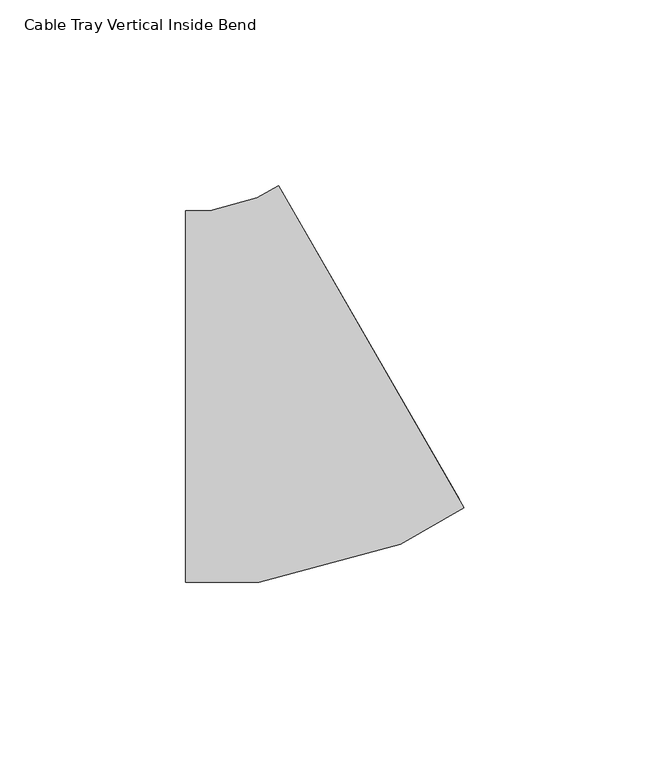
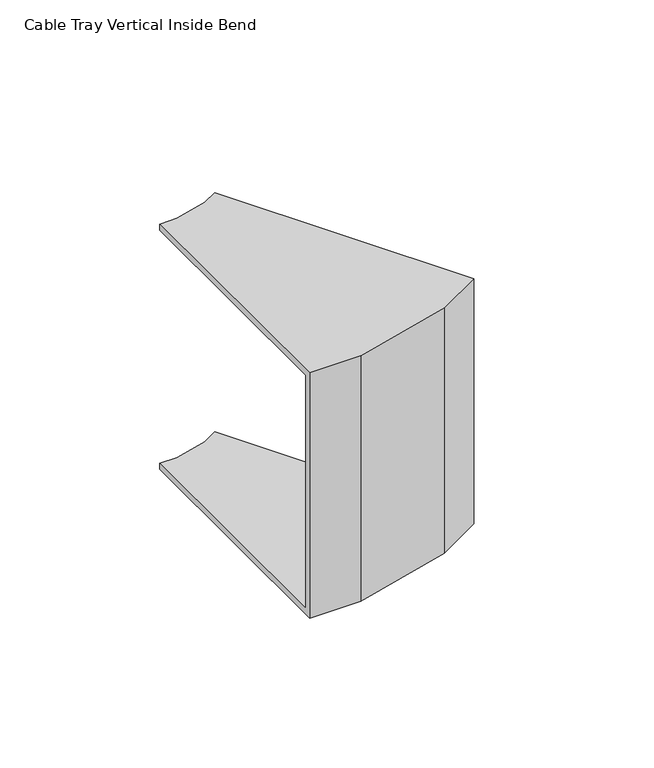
"""IFC4 building model written with IfcOpenShell, lengths in millimetres: cable carrier fitting geometry, Cable Tray Vertical Inside Bend : ELEC_ELV_TKG_N2402."""

import ifcopenshell
import ifcopenshell.guid

model = None  # the IFC model being written
_history = None  # IfcOwnerHistory: only IFC2X3 demands one
_inside = {}  # id of a spatial element -> (the spatial element, [elements in it])
_under = {}  # id of a project, library or spatial element -> (it, [spatial elements below it])
_declared = {}  # id of a project -> (the project, [libraries it declares])
_typed = {}  # id of a type object -> (the type object, [elements of that type])
_made_of = {}  # id of a material, layer set ... -> (it, [elements and type objects made of it])


def new_model(schema):
    """Start an empty IFC model of exactly this schema.

    Asked for "IFC4X3", IfcOpenShell would pick the latest addendum, in which some entities
    have other attributes; the version numbers below select the first issue.
    IFC2X3 requires an IfcOwnerHistory on every rooted entity: one is made here for all.
    """
    global model, _history
    if schema == "IFC4X3":
        model = ifcopenshell.file(schema_version=(4, 3, 0, 0))
    else:
        model = ifcopenshell.file(schema=schema)
    _inside.clear()
    _under.clear()
    _declared.clear()
    _typed.clear()
    _made_of.clear()
    _history = None
    if model.schema == "IFC2X3":
        org = make("IfcOrganization", Name="unknown")
        user = make(
            "IfcPersonAndOrganization",
            ThePerson=make("IfcPerson", FamilyName="unknown"),
            TheOrganization=org,
        )
        app = make(
            "IfcApplication",
            ApplicationDeveloper=org,
            Version="unknown",
            ApplicationFullName="unknown",
            ApplicationIdentifier="unknown",
        )
        _history = make(
            "IfcOwnerHistory",
            OwningUser=user,
            OwningApplication=app,
            ChangeAction="ADDED",
            CreationDate=0,
        )
    return model


def make(cls, **values):
    """One entity of the class cls with the attributes given. An attribute that is None is left unset."""
    return model.create_entity(
        cls, **{name: value for name, value in values.items() if value is not None}
    )


def rooted(cls, **values):
    """An entity with a GlobalId (a new one), such as an element, a storey or a relation."""
    return make(cls, GlobalId=ifcopenshell.guid.new(), OwnerHistory=_history, **values)


def si_unit(unit_type, name, prefix=None):
    """IfcSIUnit, for example si_unit("LENGTHUNIT", "METRE", prefix="MILLI")."""
    return make("IfcSIUnit", UnitType=unit_type, Prefix=prefix, Name=name)


def assignment(units):
    """IfcUnitAssignment: the units of a project."""
    return None if units is None else make("IfcUnitAssignment", Units=units)


def point(xyz):
    """IfcCartesianPoint."""
    return None if xyz is None else make("IfcCartesianPoint", Coordinates=xyz)


def direction(xyz):
    """IfcDirection."""
    return None if xyz is None else make("IfcDirection", DirectionRatios=xyz)


def frame(location, z_axis=None, x_axis=None):
    """IfcAxis2Placement3D, a coordinate frame: its origin and axes. An axis left out is left unset."""
    return make(
        "IfcAxis2Placement3D",
        Location=point(location),
        Axis=direction(z_axis),
        RefDirection=direction(x_axis),
    )


def origin():
    """The frame at (0, 0, 0) with its axes left unset."""
    return frame((0.0, 0.0, 0.0))


def place(relative_to, where):
    """IfcLocalPlacement: puts the frame where relative to a parent placement (None: the world)."""
    return make(
        "IfcLocalPlacement", PlacementRelTo=relative_to, RelativePlacement=where
    )


def context(
    kind, dimensions, precision=None, world=None, true_north=None, identifier=None
):
    """IfcGeometricRepresentationContext, for example the 3D "Model" context."""
    return make(
        "IfcGeometricRepresentationContext",
        ContextIdentifier=identifier,
        ContextType=kind,
        CoordinateSpaceDimension=dimensions,
        Precision=precision,
        WorldCoordinateSystem=world,
        TrueNorth=true_north,
    )


def project(units=None, contexts=None):
    """IfcProject with its units and contexts."""
    return rooted(
        "IfcProject",
        Name="project",
        RepresentationContexts=contexts,
        UnitsInContext=assignment(units),
    )


def spatial(cls, under=None, at=None, **own):
    """A site, building, storey or space (cls), placed at a placement, below another one or the project."""
    s = rooted(cls, ObjectPlacement=at, **own)
    if under is not None:
        _under.setdefault(under.id(), (under, []))[1].append(s)
    return s


def faces_of(points, faces, orient=None, outer=None):
    """IfcFace entities. A face is a list of loops; a loop is a list of indices into points, from 0.

    orient and outer hold one flag for each loop. By default every Orientation is true, the
    first loop of a face is its IfcFaceOuterBound and the others are IfcFaceBound.
    """
    made = []
    for i, loops in enumerate(faces):
        bounds = []
        for j, loop in enumerate(loops):
            is_outer = j == 0 if outer is None else outer[i][j]
            bounds.append(
                make(
                    "IfcFaceOuterBound" if is_outer else "IfcFaceBound",
                    Bound=make("IfcPolyLoop", Polygon=[points[k] for k in loop]),
                    Orientation=True if orient is None else orient[i][j],
                )
            )
        made.append(make("IfcFace", Bounds=bounds))
    return made


def faceted_brep(points, faces, orient=None, outer=None, voids=None):
    """IfcFacetedBrep: a solid bounded by flat faces; with voids (closed shells), ...WithVoids."""
    shared = [point(p) for p in points]
    hull = make("IfcClosedShell", CfsFaces=faces_of(shared, faces, orient, outer))
    if voids is None:
        return make("IfcFacetedBrep", Outer=hull)
    return make(
        "IfcFacetedBrepWithVoids",
        Outer=hull,
        Voids=[
            make(cls, CfsFaces=faces_of(shared, fs, o, b)) for cls, fs, o, b in voids
        ],
    )


def shape(context_of_items, identifier, shape_type, items):
    """IfcShapeRepresentation: the items that make up one representation, for example the "Body"."""
    return make(
        "IfcShapeRepresentation",
        ContextOfItems=context_of_items,
        RepresentationIdentifier=identifier,
        RepresentationType=shape_type,
        Items=items,
    )


def source(mapping_origin, context_of_items, identifier, shape_type, items):
    """IfcRepresentationMap: a shape defined once, which mapped items show again and again."""
    return make(
        "IfcRepresentationMap",
        MappingOrigin=mapping_origin,
        MappedRepresentation=shape(context_of_items, identifier, shape_type, items),
    )


def transform(
    local_origin,
    x_axis=None,
    y_axis=None,
    z_axis=None,
    scale=None,
    scale2=None,
    scale3=None,
    uniform=True,
):
    """IfcCartesianTransformationOperator3D, or its non-uniform kind. x_axis, y_axis, z_axis: its Axis1, 2, 3."""
    if uniform:
        return make(
            "IfcCartesianTransformationOperator3D",
            Axis1=direction(x_axis),
            Axis2=direction(y_axis),
            LocalOrigin=point(local_origin),
            Scale=scale,
            Axis3=direction(z_axis),
        )
    return make(
        "IfcCartesianTransformationOperator3DnonUniform",
        Axis1=direction(x_axis),
        Axis2=direction(y_axis),
        LocalOrigin=point(local_origin),
        Scale=scale,
        Axis3=direction(z_axis),
        Scale2=scale2,
        Scale3=scale3,
    )


def mapped(mapping_source, mapping_target):
    """IfcMappedItem: shows the shape of a source again, moved by a transform."""
    return make(
        "IfcMappedItem", MappingSource=mapping_source, MappingTarget=mapping_target
    )


def made_of(thing, what):
    """Note that an element or type object is made of a material, layer set ...; save() writes the relation."""
    if what is not None:
        _made_of.setdefault(what.id(), (what, []))[1].append(thing)
    return thing


def element(
    cls,
    number,
    at=None,
    inside=None,
    cuts=None,
    type_object=None,
    material=None,
    context=None,
    identifier="Body",
    shape_type=None,
    held_by="IfcProductDefinitionShape",
    body=None,
    shapes=None,
    **own,
):
    """One element of the class cls, such as IfcWall. Its Tag is "e" and its number.

    at: its placement. inside: the storey or other place that contains it. cuts: it is an
    opening in that element (IfcRelVoidsElement). A single representation is given by context,
    identifier, shape_type and body (its items); several are given by shapes. held_by: the class
    of the entity that holds the representations. save() writes the other relations.
    """
    e = rooted(cls, Tag="e%d" % number, ObjectPlacement=at, **own)
    if body is not None:
        shapes = [shape(context, identifier, shape_type, body)]
    if shapes is not None:
        e.Representation = make(held_by, Representations=shapes)
    if inside is not None:
        _inside.setdefault(inside.id(), (inside, []))[1].append(e)
    if cuts is not None:
        rooted(
            "IfcRelVoidsElement", RelatingBuildingElement=cuts, RelatedOpeningElement=e
        )
    if type_object is not None:
        _typed.setdefault(type_object.id(), (type_object, []))[1].append(e)
    return made_of(e, material)


def aggregate(whole, parts):
    """IfcRelAggregates: a whole, such as a stair, and the parts it consists of."""
    return rooted("IfcRelAggregates", RelatingObject=whole, RelatedObjects=parts)


def save(model, path):
    """Write the relations noted so far, then the file.

    IfcRelAggregates (storeys below a building ...), IfcRelContainedInSpatialStructure (elements
    in a storey), IfcRelDefinesByType, IfcRelAssociatesMaterial and IfcRelDeclares: one each for
    every whole, place, type object, material and project.
    """
    for whole, parts in _under.values():
        aggregate(whole, parts)
    for where, things in _inside.values():
        rooted(
            "IfcRelContainedInSpatialStructure",
            RelatedElements=things,
            RelatingStructure=where,
        )
    for kind, things in _typed.values():
        rooted("IfcRelDefinesByType", RelatedObjects=things, RelatingType=kind)
    for what, things in _made_of.values():
        rooted("IfcRelAssociatesMaterial", RelatedObjects=things, RelatingMaterial=what)
    for by, libraries in _declared.values():
        rooted("IfcRelDeclares", RelatingContext=by, RelatedDefinitions=libraries)
    model.write(path)


def cable_tray_vertical_inside_bend_b77830ab(model_context):
    return source(origin(), model_context, "Body", "Brep", [
        faceted_brep([(-26.7947274, 50.0, 50.0), (-26.7947274, 50.0, 47.46), (-26.7947274, -47.46, 47.46), (-26.7947274, -47.46, -47.46), (-26.7947274, 50.0, -47.46), (-26.7947274, 50.0, -50.0), (-26.7947274, -50.0, -50.0), (-26.7947274, -50.0, 50.0), (-1.7948824, 56.6986403, 50.0), (48.2048076, -29.904079, 50.0), (48.2048076, -29.904079, -50.0), (-1.7948824, 56.6986403, -50.0), (-1.7948824, 56.6986403, -47.46), (46.9348155, -27.70437, -47.46), (46.9348155, -27.70437, 47.46), (-1.7948824, 56.6986403, 47.46), (-20.212148, 50.0, 50.0), (-20.212148, 50.0, 47.46), (-7.4955751, 53.407371, 47.46), (30.1223325, -37.4109813, 47.46), (-7.3813844, -47.46, 47.46), (-7.3813844, -47.46, -47.46), (30.1223325, -37.4109813, -47.46), (-7.4955751, 53.407371, -47.46), (-20.212148, 50.0, -47.46), (-20.212148, 50.0, -50.0), (-7.4955751, 53.407371, -50.0), (31.1027294, -39.7778869, -50.0), (-7.0469893, -50.0, -50.0), (-7.0469893, -50.0, 50.0), (31.1027294, -39.7778869, 50.0), (-7.4955751, 53.407371, 50.0)], [[[0, 1, 2, 3, 4, 5, 6, 7]], [[8, 9, 10, 11, 12, 13, 14, 15]], [[1, 0, 16, 17]], [[2, 1, 17, 18, 15, 14, 19, 20]], [[3, 2, 20, 21]], [[4, 3, 21, 22, 13, 12, 23, 24]], [[5, 4, 24, 25]], [[6, 5, 25, 26, 11, 10, 27, 28]], [[7, 6, 28, 29]], [[0, 7, 29, 30, 9, 8, 31, 16]], [[17, 16, 31, 18]], [[21, 20, 19, 22]], [[25, 24, 23, 26]], [[29, 28, 27, 30]], [[18, 31, 8, 15]], [[22, 19, 14, 13]], [[26, 23, 12, 11]], [[30, 27, 10, 9]]]),
    ])


if __name__ == "__main__":
    model = new_model("IFC4")
    model_context = context("Model", 3, world=origin())
    ifc_project = project(units=[si_unit("LENGTHUNIT", "METRE", prefix="MILLI")], contexts=[model_context])
    site = spatial("IfcSite", under=ifc_project)
    building = spatial("IfcBuilding", under=site)
    placement = place(None, origin())
    cable_tray_vertical_inside_bend_shape = cable_tray_vertical_inside_bend_b77830ab(model_context)
    element("IfcCableCarrierFitting", 1, ObjectType="Cable Tray Vertical Inside Bend : ELEC_ELV_TKG_N2402", at=placement, inside=building, context=model_context, shape_type="MappedRepresentation", body=[
        mapped(cable_tray_vertical_inside_bend_shape, transform((0.0, 0.0, 0.0), x_axis=(1.0, 0.0, 0.0), y_axis=(0.0, 1.0, 0.0), z_axis=(0.0, 0.0, 1.0))),
    ])
    save(model, "model.ifc")
